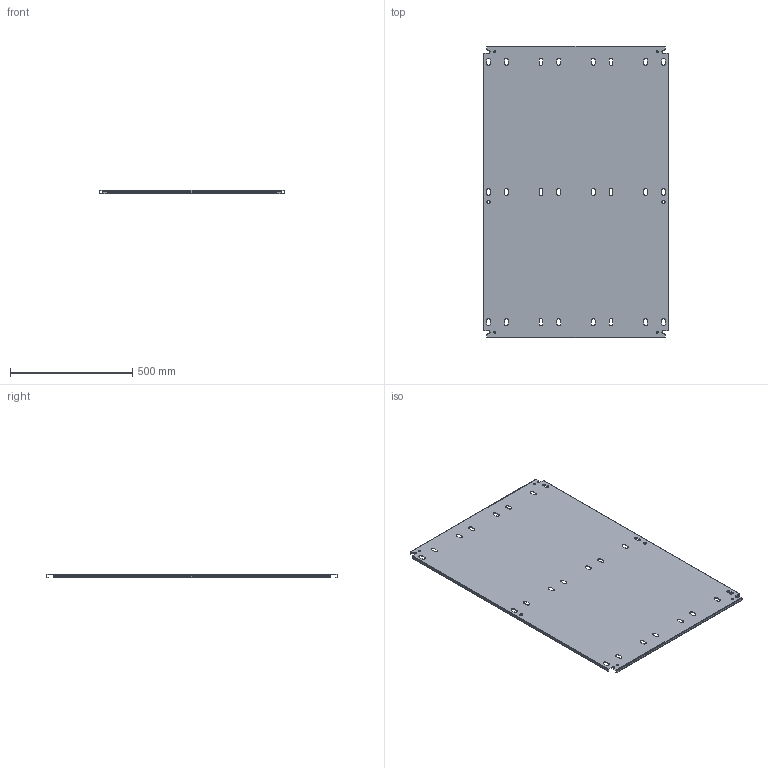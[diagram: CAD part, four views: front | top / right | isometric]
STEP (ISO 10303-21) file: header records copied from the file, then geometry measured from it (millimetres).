
FILE_DESCRIPTION(/* description */ ('1412BTSSCU 29.975" x 47" Inner Panel'),/* implementation_level */ '2;1');
FILE_NAME(/* name */ 'C:\Vault_Workspace\Inventor_Dwg\BoxCad\Result\1412BTSSCU062004\e-mail\3D\1412BTSSCU062004IP1.stp',/* time_stamp */ '2022-09-20T16:58:59-04:00',/* author */ ('BoxCad'),/* organization */ (''),/* preprocessor_version */ 'ST-DEVELOPER v18.1',/* originating_system */ 'Autodesk Inventor 2020',/* authorisation */ '');
FILE_SCHEMA (('AUTOMOTIVE_DESIGN { 1 0 10303 214 3 1 1 }'));
Length unit declared in the file: inch
Products named in the file (2): 1412BTSSCU062004IP1; 1412BTSSCU062004IP1-P
Assembly tree (1 placements, depth 2):
  1412BTSSCU062004IP1
    1412BTSSCU062004IP1-P
Bounding box: 761.37 x 1193.8 x 13 mm (x, y, z)
Volume: 1668045.7 mm3; surface area: 1942127.3 mm2
Topology: 1 solids, 1 shells, 216 faces, 642 edges, 428 vertices
Faces by surface type: plane 118, cylinder 98
Full cylindrical faces by diameter (mm): 7.366 x4, 12.7 x2
Entity records: 7471 total; most frequent: CARTESIAN_POINT 1289, ORIENTED_EDGE 1284, DIRECTION 1276, EDGE_CURVE 642, LINE 446, VECTOR 446, VERTEX_POINT 428, AXIS2_PLACEMENT_3D 415
